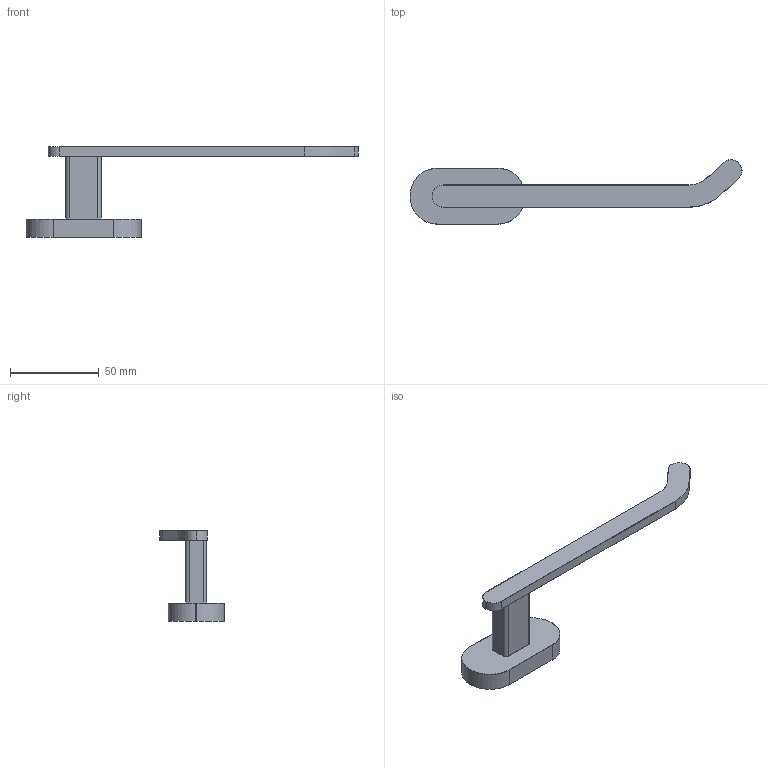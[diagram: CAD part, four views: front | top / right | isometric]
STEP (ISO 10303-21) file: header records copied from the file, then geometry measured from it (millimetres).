
FILE_DESCRIPTION (( 'STEP AP203' ), '1' );
FILE_NAME ('MA.PL18807.STEP', '2023-09-21T07:40:59', ( '' ), ( '' ), 'SwSTEP 2.0', 'SolidWorks 2023', '' );
FILE_SCHEMA (( 'CONFIG_CONTROL_DESIGN' ));
Length unit declared in the file: inch
Products named in the file (1): MA.PL18807
Bounding box: 187.51 x 36.39 x 51.3 mm (x, y, z)
Volume: 39676.8 mm3; surface area: 13579.2 mm2
Topology: 1 solids, 1 shells, 77 faces, 175 edges, 102 vertices
Faces by surface type: cylinder 36, torus 24, plane 17
Entity records: 2236 total; most frequent: DIRECTION 431, CARTESIAN_POINT 355, ORIENTED_EDGE 350, AXIS2_PLACEMENT_3D 178, EDGE_CURVE 175, VERTEX_POINT 102, CIRCLE 100, EDGE_LOOP 79
